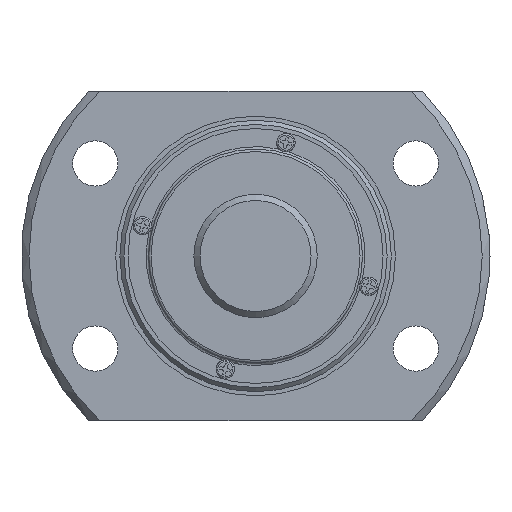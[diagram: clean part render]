
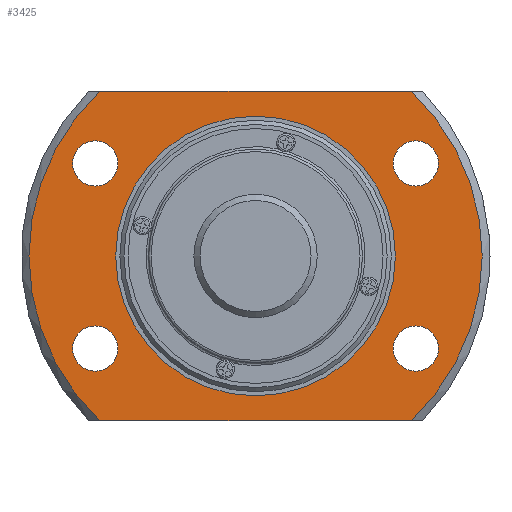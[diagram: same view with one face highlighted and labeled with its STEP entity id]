
A CAD part, left-side view. The second image highlights one B-rep face of the part: STEP entity #3425.
In plain terms, the highlighted planar face has unit normal (-1, 0, 0).
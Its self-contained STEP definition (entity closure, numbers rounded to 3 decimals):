
#25=LINE('',#5214,#353);
#26=LINE('',#5215,#354);
#353=VECTOR('',#4099,1000.);
#354=VECTOR('',#4100,1000.);
#729=PLANE('',#3686);
#913=ORIENTED_EDGE('',*,*,#1877,.T.);
#914=ORIENTED_EDGE('',*,*,#1878,.T.);
#915=ORIENTED_EDGE('',*,*,#1879,.T.);
#916=ORIENTED_EDGE('',*,*,#1880,.T.);
#917=ORIENTED_EDGE('',*,*,#1881,.T.);
#918=ORIENTED_EDGE('',*,*,#1872,.F.);
#919=ORIENTED_EDGE('',*,*,#1882,.T.);
#920=ORIENTED_EDGE('',*,*,#1875,.F.);
#921=ORIENTED_EDGE('',*,*,#1883,.T.);
#1872=EDGE_CURVE('',#2354,#2355,#2683,.T.);
#1875=EDGE_CURVE('',#2356,#2357,#2684,.T.);
#1877=EDGE_CURVE('',#2358,#2358,#2685,.T.);
#1878=EDGE_CURVE('',#2359,#2359,#2686,.T.);
#1879=EDGE_CURVE('',#2360,#2360,#2687,.T.);
#1880=EDGE_CURVE('',#2361,#2361,#2688,.T.);
#1881=EDGE_CURVE('',#2362,#2362,#2689,.T.);
#1882=EDGE_CURVE('',#2354,#2357,#25,.T.);
#1883=EDGE_CURVE('',#2356,#2355,#26,.T.);
#2354=VERTEX_POINT('',#5184);
#2355=VERTEX_POINT('',#5186);
#2356=VERTEX_POINT('',#5196);
#2357=VERTEX_POINT('',#5198);
#2358=VERTEX_POINT('',#5205);
#2359=VERTEX_POINT('',#5207);
#2360=VERTEX_POINT('',#5209);
#2361=VERTEX_POINT('',#5211);
#2362=VERTEX_POINT('',#5213);
#2683=CIRCLE('',#3683,27.55);
#2684=CIRCLE('',#3685,27.55);
#2685=CIRCLE('',#3687,17.);
#2686=CIRCLE('',#3688,2.75);
#2687=CIRCLE('',#3689,2.75);
#2688=CIRCLE('',#3690,2.75);
#2689=CIRCLE('',#3691,2.75);
#2825=EDGE_LOOP('',(#913));
#2826=EDGE_LOOP('',(#914));
#2827=EDGE_LOOP('',(#915));
#2828=EDGE_LOOP('',(#916));
#2829=EDGE_LOOP('',(#917));
#2830=EDGE_LOOP('',(#918,#919,#920,#921));
#3101=FACE_BOUND('',#2825,.T.);
#3102=FACE_BOUND('',#2826,.T.);
#3103=FACE_BOUND('',#2827,.T.);
#3104=FACE_BOUND('',#2828,.T.);
#3105=FACE_BOUND('',#2829,.T.);
#3106=FACE_BOUND('',#2830,.T.);
#3425=ADVANCED_FACE('',(#3101,#3102,#3103,#3104,#3105,#3106),#729,.T.);
#3683=AXIS2_PLACEMENT_3D('',#5185,#4081,#4082);
#3685=AXIS2_PLACEMENT_3D('',#5197,#4085,#4086);
#3686=AXIS2_PLACEMENT_3D('',#5203,#4087,#4088);
#3687=AXIS2_PLACEMENT_3D('',#5204,#4089,#4090);
#3688=AXIS2_PLACEMENT_3D('',#5206,#4091,#4092);
#3689=AXIS2_PLACEMENT_3D('',#5208,#4093,#4094);
#3690=AXIS2_PLACEMENT_3D('',#5210,#4095,#4096);
#3691=AXIS2_PLACEMENT_3D('',#5212,#4097,#4098);
#4081=DIRECTION('',(1.,0.,0.));
#4082=DIRECTION('',(0.,0.,-1.));
#4085=DIRECTION('',(1.,0.,0.));
#4086=DIRECTION('',(0.,0.,-1.));
#4087=DIRECTION('',(-1.,0.,0.));
#4088=DIRECTION('',(0.,0.,1.));
#4089=DIRECTION('',(1.,0.,0.));
#4090=DIRECTION('',(0.,0.,-1.));
#4091=DIRECTION('',(1.,0.,0.));
#4092=DIRECTION('',(0.,0.,-1.));
#4093=DIRECTION('',(1.,0.,0.));
#4094=DIRECTION('',(0.,0.,-1.));
#4095=DIRECTION('',(1.,0.,0.));
#4096=DIRECTION('',(0.,0.,-1.));
#4097=DIRECTION('',(1.,0.,0.));
#4098=DIRECTION('',(0.,0.,-1.));
#4099=DIRECTION('',(0.,1.,0.));
#4100=DIRECTION('',(0.,-1.,0.));
#5184=CARTESIAN_POINT('',(10.,-18.947,20.));
#5185=CARTESIAN_POINT('',(10.,0.,0.));
#5186=CARTESIAN_POINT('',(10.,-18.947,-20.));
#5196=CARTESIAN_POINT('',(10.,18.947,-20.));
#5197=CARTESIAN_POINT('',(10.,0.,0.));
#5198=CARTESIAN_POINT('',(10.,18.947,20.));
#5203=CARTESIAN_POINT('',(10.,27.55,0.));
#5204=CARTESIAN_POINT('',(10.,0.,0.));
#5205=CARTESIAN_POINT('',(10.,0.,-17.));
#5206=CARTESIAN_POINT('',(10.,-19.486,11.25));
#5207=CARTESIAN_POINT('',(10.,-19.486,8.5));
#5208=CARTESIAN_POINT('',(10.,19.486,-11.25));
#5209=CARTESIAN_POINT('',(10.,19.486,-14.));
#5210=CARTESIAN_POINT('',(10.,-19.486,-11.25));
#5211=CARTESIAN_POINT('',(10.,-19.486,-14.));
#5212=CARTESIAN_POINT('',(10.,19.486,11.25));
#5213=CARTESIAN_POINT('',(10.,19.486,8.5));
#5214=CARTESIAN_POINT('',(10.,27.55,20.));
#5215=CARTESIAN_POINT('',(10.,27.55,-20.));
